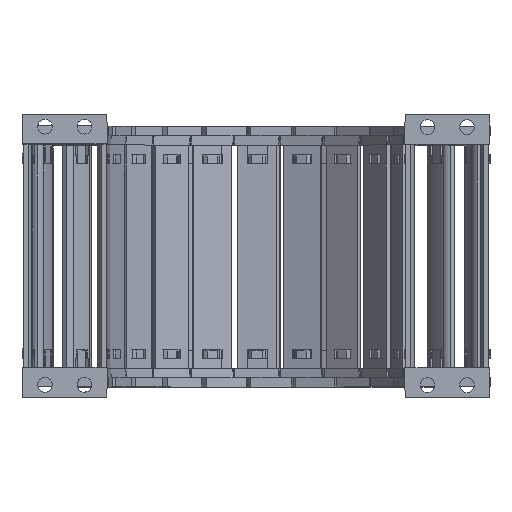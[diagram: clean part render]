
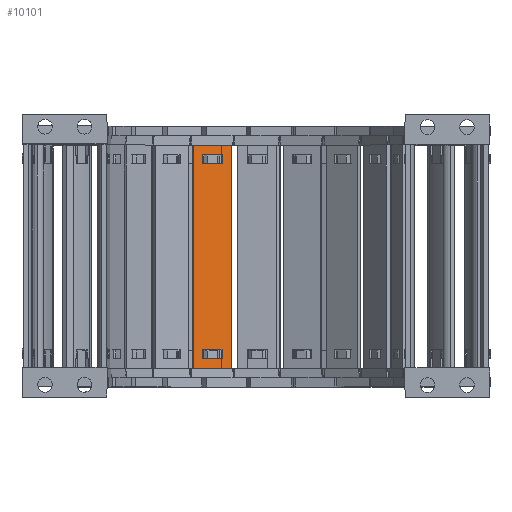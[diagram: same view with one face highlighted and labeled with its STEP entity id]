
A CAD part, top view. The second image highlights one B-rep face of the part: STEP entity #10101.
In plain terms, the highlighted planar face has unit normal (0.259, 0, 0.966).
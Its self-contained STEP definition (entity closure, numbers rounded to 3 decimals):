
#4663=FACE_BOUND('',#23383,.T.);
#4664=FACE_BOUND('',#23384,.T.);
#4665=FACE_BOUND('',#23385,.T.);
#5651=PLANE('',#121248);
#10101=ADVANCED_FACE('',(#4663,#4664,#4665),#5651,.F.);
#23383=EDGE_LOOP('',(#38223,#38224,#38225,#38226));
#23384=EDGE_LOOP('',(#38227,#38228,#38229,#38230));
#23385=EDGE_LOOP('',(#38231,#38232,#38233,#38234));
#38223=ORIENTED_EDGE('',*,*,#81626,.F.);
#38224=ORIENTED_EDGE('',*,*,#81597,.F.);
#38225=ORIENTED_EDGE('',*,*,#81631,.F.);
#38226=ORIENTED_EDGE('',*,*,#81608,.F.);
#38227=ORIENTED_EDGE('',*,*,#81643,.F.);
#38228=ORIENTED_EDGE('',*,*,#81636,.F.);
#38229=ORIENTED_EDGE('',*,*,#81675,.F.);
#38230=ORIENTED_EDGE('',*,*,#81650,.T.);
#38231=ORIENTED_EDGE('',*,*,#81673,.T.);
#38232=ORIENTED_EDGE('',*,*,#81676,.F.);
#38233=ORIENTED_EDGE('',*,*,#81677,.F.);
#38234=ORIENTED_EDGE('',*,*,#81678,.F.);
#69013=VERTEX_POINT('',#171403);
#69014=VERTEX_POINT('',#171405);
#69020=VERTEX_POINT('',#171420);
#69023=VERTEX_POINT('',#171426);
#69040=VERTEX_POINT('',#171483);
#69041=VERTEX_POINT('',#171484);
#69047=VERTEX_POINT('',#171498);
#69050=VERTEX_POINT('',#171506);
#69063=VERTEX_POINT('',#171553);
#69064=VERTEX_POINT('',#171555);
#69065=VERTEX_POINT('',#171560);
#69066=VERTEX_POINT('',#171562);
#81597=EDGE_CURVE('',#69013,#69014,#98089,.T.);
#81608=EDGE_CURVE('',#69023,#69020,#98100,.T.);
#81626=EDGE_CURVE('',#69014,#69023,#98115,.T.);
#81631=EDGE_CURVE('',#69020,#69013,#98120,.T.);
#81636=EDGE_CURVE('',#69040,#69041,#98125,.T.);
#81643=EDGE_CURVE('',#69041,#69047,#98132,.T.);
#81650=EDGE_CURVE('',#69050,#69047,#98139,.T.);
#81673=EDGE_CURVE('',#69064,#69063,#98153,.T.);
#81675=EDGE_CURVE('',#69050,#69040,#98155,.T.);
#81676=EDGE_CURVE('',#69065,#69063,#98156,.T.);
#81677=EDGE_CURVE('',#69066,#69065,#98157,.T.);
#81678=EDGE_CURVE('',#69064,#69066,#98158,.T.);
#98089=LINE('',#171404,#109721);
#98100=LINE('',#171427,#109732);
#98115=LINE('',#171462,#109747);
#98120=LINE('',#171471,#109752);
#98125=LINE('',#171482,#109757);
#98132=LINE('',#171497,#109764);
#98139=LINE('',#171510,#109771);
#98153=LINE('',#171554,#109785);
#98155=LINE('',#171558,#109787);
#98156=LINE('',#171559,#109788);
#98157=LINE('',#171561,#109789);
#98158=LINE('',#171563,#109790);
#109721=VECTOR('',#135874,1.);
#109732=VECTOR('',#135889,1.);
#109747=VECTOR('',#135924,1.);
#109752=VECTOR('',#135933,1.);
#109757=VECTOR('',#135942,1.);
#109764=VECTOR('',#135951,1.);
#109771=VECTOR('',#135960,1.);
#109785=VECTOR('',#136010,1.);
#109787=VECTOR('',#136014,1.);
#109788=VECTOR('',#136015,1.);
#109789=VECTOR('',#136016,1.);
#109790=VECTOR('',#136017,1.);
#121248=AXIS2_PLACEMENT_3D('',#171564,#136018,#136019);
#135874=DIRECTION('',(0.966,0.,-0.259));
#135889=DIRECTION('',(-0.966,0.,0.259));
#135924=DIRECTION('',(0.,1.,0.));
#135933=DIRECTION('',(0.,-1.,0.));
#135942=DIRECTION('',(-0.966,0.,0.259));
#135951=DIRECTION('',(0.,-1.,0.));
#135960=DIRECTION('',(-0.966,0.,0.259));
#136010=DIRECTION('',(0.,-1.,0.));
#136014=DIRECTION('',(0.,1.,0.));
#136015=DIRECTION('',(-0.966,0.,0.259));
#136016=DIRECTION('',(0.,-1.,0.));
#136017=DIRECTION('',(0.966,0.,-0.259));
#136018=DIRECTION('',(-0.259,0.,-0.966));
#136019=DIRECTION('',(-0.966,0.,0.259));
#171403=CARTESIAN_POINT('',(-99.114,-86.53,-76.948));
#171404=CARTESIAN_POINT('',(-99.114,-86.53,-76.948));
#171405=CARTESIAN_POINT('',(-91.242,-86.53,-79.058));
#171420=CARTESIAN_POINT('',(-99.114,-82.882,-76.948));
#171426=CARTESIAN_POINT('',(-91.242,-82.882,-79.058));
#171427=CARTESIAN_POINT('',(-91.242,-82.882,-79.058));
#171462=CARTESIAN_POINT('',(-91.242,-117.96,-79.058));
#171471=CARTESIAN_POINT('',(-99.114,-114.36,-76.948));
#171482=CARTESIAN_POINT('',(-91.242,-3.97,-79.058));
#171483=CARTESIAN_POINT('',(-91.242,-3.97,-79.058));
#171484=CARTESIAN_POINT('',(-99.114,-3.97,-76.948));
#171497=CARTESIAN_POINT('',(-99.114,-3.97,-76.948));
#171498=CARTESIAN_POINT('',(-99.114,-7.618,-76.948));
#171506=CARTESIAN_POINT('',(-91.242,-7.618,-79.058));
#171510=CARTESIAN_POINT('',(-91.242,-7.618,-79.058));
#171553=CARTESIAN_POINT('',(-102.809,-90.5,-75.959));
#171554=CARTESIAN_POINT('',(-102.809,0.,-75.959));
#171555=CARTESIAN_POINT('',(-102.809,0.,-75.959));
#171558=CARTESIAN_POINT('',(-91.242,-7.618,-79.058));
#171559=CARTESIAN_POINT('',(-87.547,-90.5,-80.048));
#171560=CARTESIAN_POINT('',(-87.547,-90.5,-80.048));
#171561=CARTESIAN_POINT('',(-87.547,0.,-80.048));
#171562=CARTESIAN_POINT('',(-87.547,0.,-80.048));
#171563=CARTESIAN_POINT('',(-102.809,0.,-75.959));
#171564=CARTESIAN_POINT('',(-85.46,31.74,-80.607));
